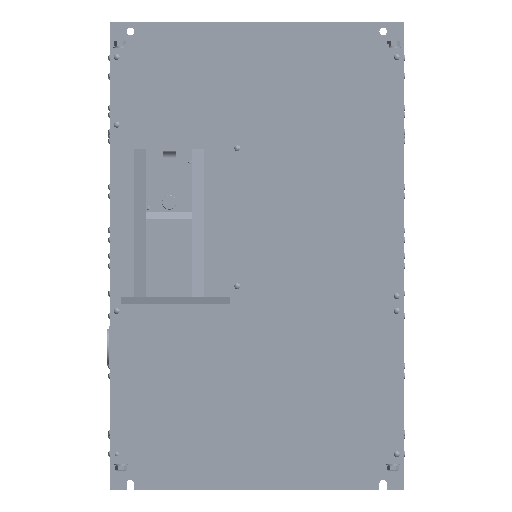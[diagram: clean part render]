
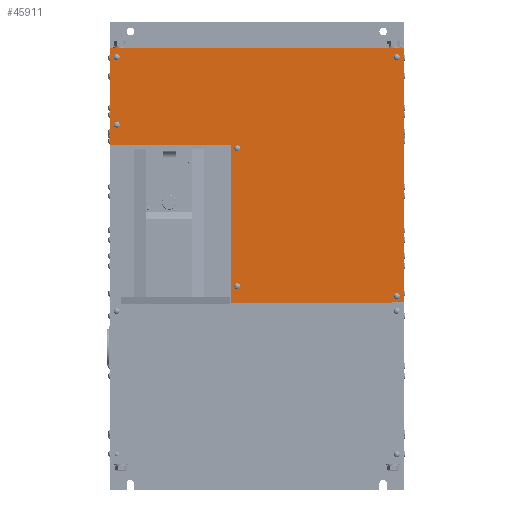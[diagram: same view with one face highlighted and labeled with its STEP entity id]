
A CAD part, top view. The second image highlights one B-rep face of the part: STEP entity #45911.
In plain terms, the highlighted planar face has unit normal (0, 0, 1).
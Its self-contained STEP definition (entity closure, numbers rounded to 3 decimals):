
#4193=DIRECTION('',(0.,1.,0.));
#4194=VECTOR('',#4193,153.);
#4195=CARTESIAN_POINT('',(0.,500.,351.3));
#4196=LINE('',#4195,#4194);
#4899=DIRECTION('',(0.,1.,0.));
#4900=VECTOR('',#4899,1.6);
#4901=CARTESIAN_POINT('',(446.,249.5,351.3));
#4902=LINE('',#4901,#4900);
#4903=DIRECTION('',(1.,0.,0.));
#4904=VECTOR('',#4903,255.);
#4905=CARTESIAN_POINT('',(191.,249.5,351.3));
#4906=LINE('',#4905,#4904);
#4907=DIRECTION('',(0.,1.,0.));
#4908=VECTOR('',#4907,250.5);
#4909=CARTESIAN_POINT('',(191.,249.5,351.3));
#4910=LINE('',#4909,#4908);
#4911=DIRECTION('',(1.,0.,0.));
#4912=VECTOR('',#4911,191.);
#4913=CARTESIAN_POINT('',(0.,500.,351.3));
#4914=LINE('',#4913,#4912);
#4915=DIRECTION('',(-1.,0.,0.));
#4916=VECTOR('',#4915,19.);
#4917=CARTESIAN_POINT('',(465.,251.1,351.3));
#4918=LINE('',#4917,#4916);
#4919=CARTESIAN_POINT('',(11.,639.,351.3));
#4920=DIRECTION('',(0.,0.,-1.));
#4921=DIRECTION('',(-1.,0.,0.));
#4922=AXIS2_PLACEMENT_3D('',#4919,#4920,#4921);
#4924=CARTESIAN_POINT('',(11.,639.,351.3));
#4925=DIRECTION('',(0.,0.,-1.));
#4926=DIRECTION('',(1.,0.,0.));
#4927=AXIS2_PLACEMENT_3D('',#4924,#4925,#4926);
#4929=CARTESIAN_POINT('',(11.,532.,351.3));
#4930=DIRECTION('',(0.,0.,-1.));
#4931=DIRECTION('',(-1.,0.,0.));
#4932=AXIS2_PLACEMENT_3D('',#4929,#4930,#4931);
#4934=CARTESIAN_POINT('',(11.,532.,351.3));
#4935=DIRECTION('',(0.,0.,-1.));
#4936=DIRECTION('',(1.,0.,0.));
#4937=AXIS2_PLACEMENT_3D('',#4934,#4935,#4936);
#4939=CARTESIAN_POINT('',(201.6,494.6,351.3));
#4940=DIRECTION('',(0.,0.,-1.));
#4941=DIRECTION('',(-1.,0.,0.));
#4942=AXIS2_PLACEMENT_3D('',#4939,#4940,#4941);
#4944=CARTESIAN_POINT('',(201.6,494.6,351.3));
#4945=DIRECTION('',(0.,0.,-1.));
#4946=DIRECTION('',(1.,0.,0.));
#4947=AXIS2_PLACEMENT_3D('',#4944,#4945,#4946);
#4949=CARTESIAN_POINT('',(201.6,276.6,351.3));
#4950=DIRECTION('',(0.,0.,-1.));
#4951=DIRECTION('',(-1.,0.,0.));
#4952=AXIS2_PLACEMENT_3D('',#4949,#4950,#4951);
#4954=CARTESIAN_POINT('',(201.6,276.6,351.3));
#4955=DIRECTION('',(0.,0.,-1.));
#4956=DIRECTION('',(1.,0.,0.));
#4957=AXIS2_PLACEMENT_3D('',#4954,#4955,#4956);
#4959=CARTESIAN_POINT('',(454.,639.,351.3));
#4960=DIRECTION('',(0.,0.,-1.));
#4961=DIRECTION('',(-1.,0.,0.));
#4962=AXIS2_PLACEMENT_3D('',#4959,#4960,#4961);
#4964=CARTESIAN_POINT('',(454.,639.,351.3));
#4965=DIRECTION('',(0.,0.,-1.));
#4966=DIRECTION('',(1.,0.,0.));
#4967=AXIS2_PLACEMENT_3D('',#4964,#4965,#4966);
#4969=CARTESIAN_POINT('',(454.,261.,351.3));
#4970=DIRECTION('',(0.,0.,-1.));
#4971=DIRECTION('',(-1.,0.,0.));
#4972=AXIS2_PLACEMENT_3D('',#4969,#4970,#4971);
#4974=CARTESIAN_POINT('',(454.,261.,351.3));
#4975=DIRECTION('',(0.,0.,-1.));
#4976=DIRECTION('',(1.,0.,0.));
#4977=AXIS2_PLACEMENT_3D('',#4974,#4975,#4976);
#6153=DIRECTION('',(0.,1.,0.));
#6154=VECTOR('',#6153,401.9);
#6155=CARTESIAN_POINT('',(465.,251.1,351.3));
#6156=LINE('',#6155,#6154);
#13519=DIRECTION('',(1.,0.,0.));
#13520=VECTOR('',#13519,465.);
#13521=CARTESIAN_POINT('',(0.,653.,351.3));
#13522=LINE('',#13521,#13520);
#34680=CARTESIAN_POINT('',(0.,653.,351.3));
#34682=VERTEX_POINT('',#34680);
#34688=CARTESIAN_POINT('',(465.,653.,351.3));
#34690=VERTEX_POINT('',#34688);
#34697=CARTESIAN_POINT('',(191.,249.5,351.3));
#34699=VERTEX_POINT('',#34697);
#34700=CARTESIAN_POINT('',(191.,500.,351.3));
#34701=VERTEX_POINT('',#34700);
#34702=CARTESIAN_POINT('',(0.,500.,351.3));
#34703=VERTEX_POINT('',#34702);
#34716=CARTESIAN_POINT('',(446.,249.5,351.3));
#34717=CARTESIAN_POINT('',(446.,251.1,351.3));
#34718=VERTEX_POINT('',#34716);
#34719=VERTEX_POINT('',#34717);
#34720=CARTESIAN_POINT('',(465.,251.1,351.3));
#34721=VERTEX_POINT('',#34720);
#34736=CARTESIAN_POINT('',(6.3,639.,351.3));
#34737=CARTESIAN_POINT('',(15.7,639.,351.3));
#34738=VERTEX_POINT('',#34736);
#34739=VERTEX_POINT('',#34737);
#34746=CARTESIAN_POINT('',(6.3,532.,351.3));
#34747=CARTESIAN_POINT('',(15.7,532.,351.3));
#34748=VERTEX_POINT('',#34746);
#34749=VERTEX_POINT('',#34747);
#34760=CARTESIAN_POINT('',(196.9,494.6,351.3));
#34761=CARTESIAN_POINT('',(206.3,494.6,351.3));
#34762=VERTEX_POINT('',#34760);
#34763=VERTEX_POINT('',#34761);
#34782=CARTESIAN_POINT('',(196.9,276.6,351.3));
#34783=CARTESIAN_POINT('',(206.3,276.6,351.3));
#34784=VERTEX_POINT('',#34782);
#34785=VERTEX_POINT('',#34783);
#34800=CARTESIAN_POINT('',(449.3,639.,351.3));
#34801=CARTESIAN_POINT('',(458.7,639.,351.3));
#34802=VERTEX_POINT('',#34800);
#34803=VERTEX_POINT('',#34801);
#34810=CARTESIAN_POINT('',(449.3,261.,351.3));
#34811=CARTESIAN_POINT('',(458.7,261.,351.3));
#34812=VERTEX_POINT('',#34810);
#34813=VERTEX_POINT('',#34811);
#45854=CARTESIAN_POINT('',(0.,249.5,351.3));
#45855=DIRECTION('',(0.,0.,1.));
#45856=DIRECTION('',(0.,1.,0.));
#45857=AXIS2_PLACEMENT_3D('',#45854,#45855,#45856);
#45858=PLANE('',#45857);
#45860=ORIENTED_EDGE('',*,*,#45859,.F.);
#45862=ORIENTED_EDGE('',*,*,#45861,.F.);
#45864=ORIENTED_EDGE('',*,*,#45863,.T.);
#45865=ORIENTED_EDGE('',*,*,#45843,.F.);
#45866=ORIENTED_EDGE('',*,*,#44255,.T.);
#45868=ORIENTED_EDGE('',*,*,#45867,.T.);
#45870=ORIENTED_EDGE('',*,*,#45869,.F.);
#45872=ORIENTED_EDGE('',*,*,#45871,.T.);
#45873=EDGE_LOOP('',(#45860,#45862,#45864,#45865,#45866,#45868,#45870,#45872));
#45874=FACE_OUTER_BOUND('',#45873,.F.);
#45876=ORIENTED_EDGE('',*,*,#45875,.F.);
#45878=ORIENTED_EDGE('',*,*,#45877,.F.);
#45879=EDGE_LOOP('',(#45876,#45878));
#45880=FACE_BOUND('',#45879,.F.);
#45882=ORIENTED_EDGE('',*,*,#45881,.F.);
#45884=ORIENTED_EDGE('',*,*,#45883,.F.);
#45885=EDGE_LOOP('',(#45882,#45884));
#45886=FACE_BOUND('',#45885,.F.);
#45888=ORIENTED_EDGE('',*,*,#45887,.F.);
#45890=ORIENTED_EDGE('',*,*,#45889,.F.);
#45891=EDGE_LOOP('',(#45888,#45890));
#45892=FACE_BOUND('',#45891,.F.);
#45894=ORIENTED_EDGE('',*,*,#45893,.F.);
#45896=ORIENTED_EDGE('',*,*,#45895,.F.);
#45897=EDGE_LOOP('',(#45894,#45896));
#45898=FACE_BOUND('',#45897,.F.);
#45900=ORIENTED_EDGE('',*,*,#45899,.F.);
#45902=ORIENTED_EDGE('',*,*,#45901,.F.);
#45903=EDGE_LOOP('',(#45900,#45902));
#45904=FACE_BOUND('',#45903,.F.);
#45906=ORIENTED_EDGE('',*,*,#45905,.F.);
#45908=ORIENTED_EDGE('',*,*,#45907,.F.);
#45909=EDGE_LOOP('',(#45906,#45908));
#45910=FACE_BOUND('',#45909,.F.);
#45911=ADVANCED_FACE('',(#45874,#45880,#45886,#45892,#45898,#45904,#45910),
#45858,.T.);
#4923=CIRCLE('',#4922,4.7);
#4928=CIRCLE('',#4927,4.7);
#4933=CIRCLE('',#4932,4.7);
#4938=CIRCLE('',#4937,4.7);
#4943=CIRCLE('',#4942,4.7);
#4948=CIRCLE('',#4947,4.7);
#4953=CIRCLE('',#4952,4.7);
#4958=CIRCLE('',#4957,4.7);
#4963=CIRCLE('',#4962,4.7);
#4968=CIRCLE('',#4967,4.7);
#4973=CIRCLE('',#4972,4.7);
#4978=CIRCLE('',#4977,4.7);
#44255=EDGE_CURVE('',#34703,#34682,#4196,.T.);
#45843=EDGE_CURVE('',#34703,#34701,#4914,.T.);
#45859=EDGE_CURVE('',#34718,#34719,#4902,.T.);
#45861=EDGE_CURVE('',#34699,#34718,#4906,.T.);
#45863=EDGE_CURVE('',#34699,#34701,#4910,.T.);
#45867=EDGE_CURVE('',#34682,#34690,#13522,.T.);
#45869=EDGE_CURVE('',#34721,#34690,#6156,.T.);
#45871=EDGE_CURVE('',#34721,#34719,#4918,.T.);
#45875=EDGE_CURVE('',#34738,#34739,#4923,.T.);
#45877=EDGE_CURVE('',#34739,#34738,#4928,.T.);
#45881=EDGE_CURVE('',#34748,#34749,#4933,.T.);
#45883=EDGE_CURVE('',#34749,#34748,#4938,.T.);
#45887=EDGE_CURVE('',#34762,#34763,#4943,.T.);
#45889=EDGE_CURVE('',#34763,#34762,#4948,.T.);
#45893=EDGE_CURVE('',#34784,#34785,#4953,.T.);
#45895=EDGE_CURVE('',#34785,#34784,#4958,.T.);
#45899=EDGE_CURVE('',#34802,#34803,#4963,.T.);
#45901=EDGE_CURVE('',#34803,#34802,#4968,.T.);
#45905=EDGE_CURVE('',#34812,#34813,#4973,.T.);
#45907=EDGE_CURVE('',#34813,#34812,#4978,.T.);
